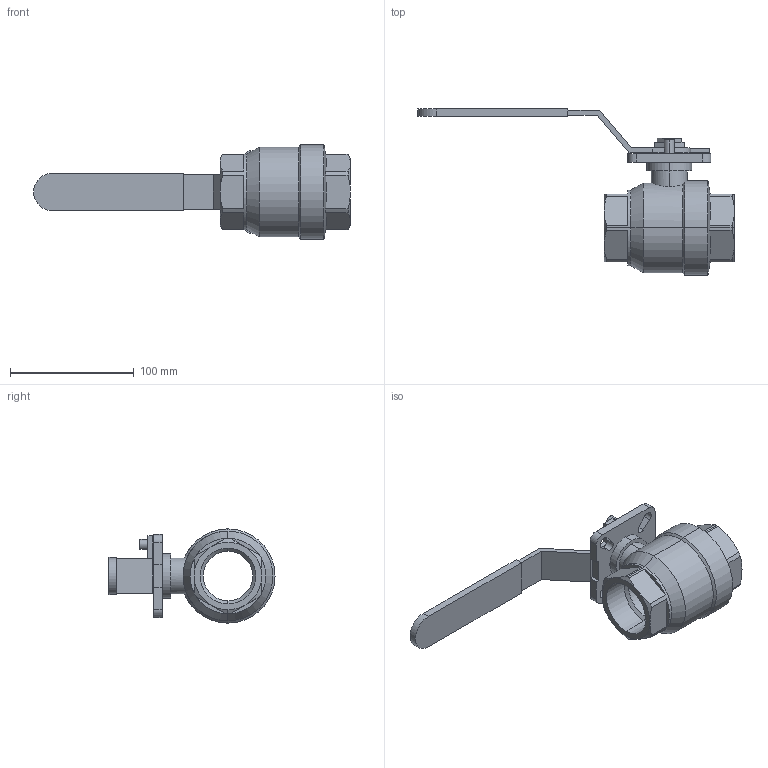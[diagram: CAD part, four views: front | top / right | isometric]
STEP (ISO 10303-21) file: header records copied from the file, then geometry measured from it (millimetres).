
FILE_DESCRIPTION (( 'STEP AP203' ), '1' );
FILE_NAME ('B3.622I040IFVPB0.STEP', '2018-09-28T14:33:29', ( '' ), ( '' ), 'SwSTEP 2.0', 'SolidWorks 2014', '' );
FILE_SCHEMA (( 'CONFIG_CONTROL_DESIGN' ));
Length unit declared in the file: millimetre
Products named in the file (1): B3.622I040IFVPB0
Bounding box: 255.5 x 134 x 76 mm (x, y, z)
Volume: 303823.9 mm3; surface area: 69203.2 mm2
Topology: 1 solids, 1 shells, 147 faces, 378 edges, 241 vertices
Faces by surface type: plane 79, cylinder 43, cone 25
Entity records: 4794 total; most frequent: CARTESIAN_POINT 1095, ORIENTED_EDGE 756, DIRECTION 751, EDGE_CURVE 378, AXIS2_PLACEMENT_3D 261, VERTEX_POINT 241, LINE 229, VECTOR 229
